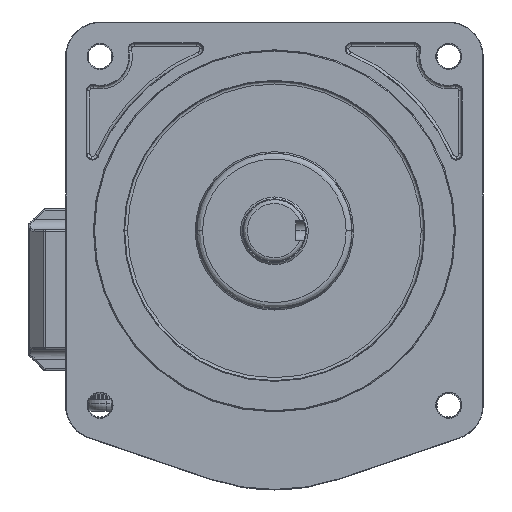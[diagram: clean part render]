
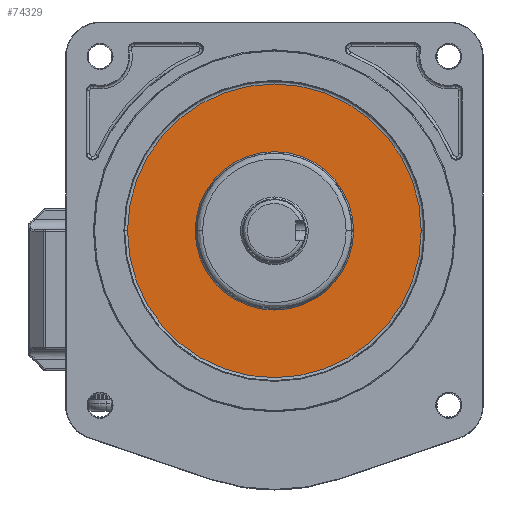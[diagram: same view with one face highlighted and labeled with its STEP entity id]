
A CAD part, top view. The second image highlights one B-rep face of the part: STEP entity #74329.
In plain terms, the highlighted planar face has unit normal (0, 0, 1).
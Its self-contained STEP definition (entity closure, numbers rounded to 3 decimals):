
#6206 = AXIS2_PLACEMENT_3D ( 'NONE', #30993, #58646, #18429 ) ;
#8767 = ORIENTED_EDGE ( 'NONE', *, *, #145564, .F. ) ;
#11969 = DIRECTION ( 'NONE',  ( 0., 0., 1. ) ) ;
#14353 = ORIENTED_EDGE ( 'NONE', *, *, #83724, .F. ) ;
#17478 = AXIS2_PLACEMENT_3D ( 'NONE', #60632, #11969, #50498 ) ;
#18429 = DIRECTION ( 'NONE',  ( 1., 0., 0. ) ) ;
#22536 = CARTESIAN_POINT ( 'NONE',  ( 43.841, 126.278, 84.336 ) ) ;
#25111 = CARTESIAN_POINT ( 'NONE',  ( 43.841, 126.278, 84.336 ) ) ;
#25929 = DIRECTION ( 'NONE',  ( 0., 0., 1. ) ) ;
#28785 = VERTEX_POINT ( 'NONE', #99768 ) ;
#30993 = CARTESIAN_POINT ( 'NONE',  ( 133.841, 216.278, 84.336 ) ) ;
#46693 = VERTEX_POINT ( 'NONE', #126367 ) ;
#50498 = DIRECTION ( 'NONE',  ( -1., 0., 0. ) ) ;
#51252 = CARTESIAN_POINT ( 'NONE',  ( 43.841, 126.278, 84.336 ) ) ;
#57790 = CARTESIAN_POINT ( 'NONE',  ( 69.306, 126.278, 84.336 ) ) ;
#57825 = FACE_BOUND ( 'NONE', #147777, .T. ) ;
#58646 = DIRECTION ( 'NONE',  ( 0., 0., 1. ) ) ;
#59460 = DIRECTION ( 'NONE',  ( 0., 0., 1. ) ) ;
#60632 = CARTESIAN_POINT ( 'NONE',  ( 43.841, 126.278, 84.336 ) ) ;
#63845 = DIRECTION ( 'NONE',  ( -1., 0., 0. ) ) ;
#64935 = ORIENTED_EDGE ( 'NONE', *, *, #112222, .T. ) ;
#71269 = FACE_OUTER_BOUND ( 'NONE', #124612, .T. ) ;
#72704 = AXIS2_PLACEMENT_3D ( 'NONE', #22536, #59460, #110675 ) ;
#74329 = ADVANCED_FACE ( 'NONE', ( #71269, #57825 ), #148441, .T. ) ;
#76440 = ORIENTED_EDGE ( 'NONE', *, *, #86222, .T. ) ;
#83724 = EDGE_CURVE ( 'NONE', #123289, #130947, #145099, .T. ) ;
#86222 = EDGE_CURVE ( 'NONE', #28785, #46693, #153492, .T. ) ;
#89796 = CIRCLE ( 'NONE', #17478, 25.464 ) ;
#89867 = DIRECTION ( 'NONE',  ( 0., 0., 1. ) ) ;
#99618 = AXIS2_PLACEMENT_3D ( 'NONE', #51252, #89867, #63845 ) ;
#99768 = CARTESIAN_POINT ( 'NONE',  ( -32.088, 126.278, 84.336 ) ) ;
#102170 = CIRCLE ( 'NONE', #72704, 75.929 ) ;
#110675 = DIRECTION ( 'NONE',  ( 1., 0., 0. ) ) ;
#112222 = EDGE_CURVE ( 'NONE', #46693, #28785, #102170, .T. ) ;
#112470 = CARTESIAN_POINT ( 'NONE',  ( 18.377, 126.278, 84.336 ) ) ;
#116576 = DIRECTION ( 'NONE',  ( 1., 0., 0. ) ) ;
#121444 = AXIS2_PLACEMENT_3D ( 'NONE', #25111, #25929, #116576 ) ;
#123289 = VERTEX_POINT ( 'NONE', #57790 ) ;
#124612 = EDGE_LOOP ( 'NONE', ( #64935, #76440 ) ) ;
#126367 = CARTESIAN_POINT ( 'NONE',  ( 119.771, 126.278, 84.336 ) ) ;
#130947 = VERTEX_POINT ( 'NONE', #112470 ) ;
#145099 = CIRCLE ( 'NONE', #99618, 25.464 ) ;
#145564 = EDGE_CURVE ( 'NONE', #130947, #123289, #89796, .T. ) ;
#147777 = EDGE_LOOP ( 'NONE', ( #8767, #14353 ) ) ;
#148441 = PLANE ( 'NONE',  #6206 ) ;
#153492 = CIRCLE ( 'NONE', #121444, 75.929 ) ;
